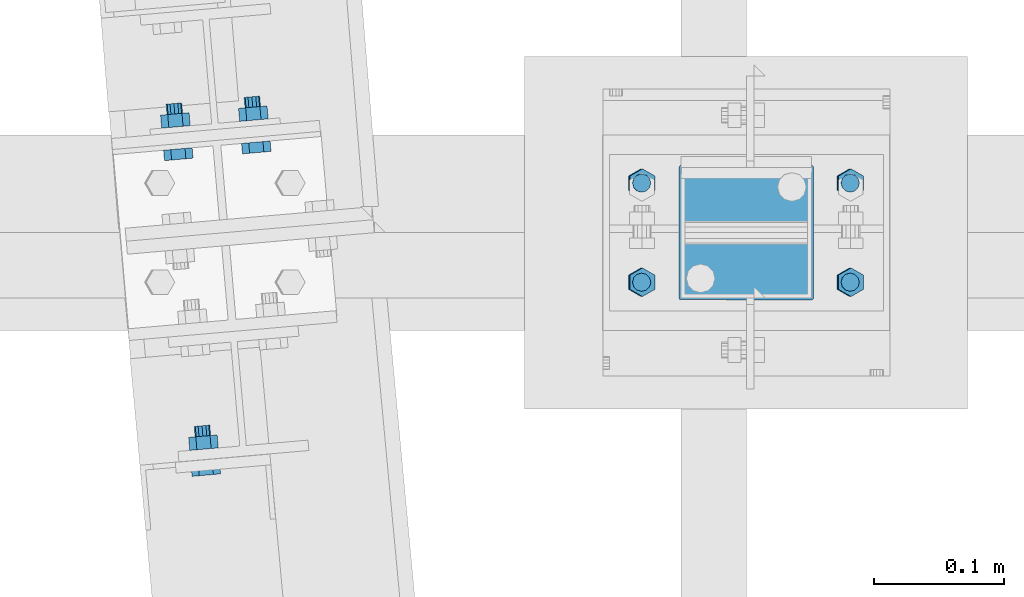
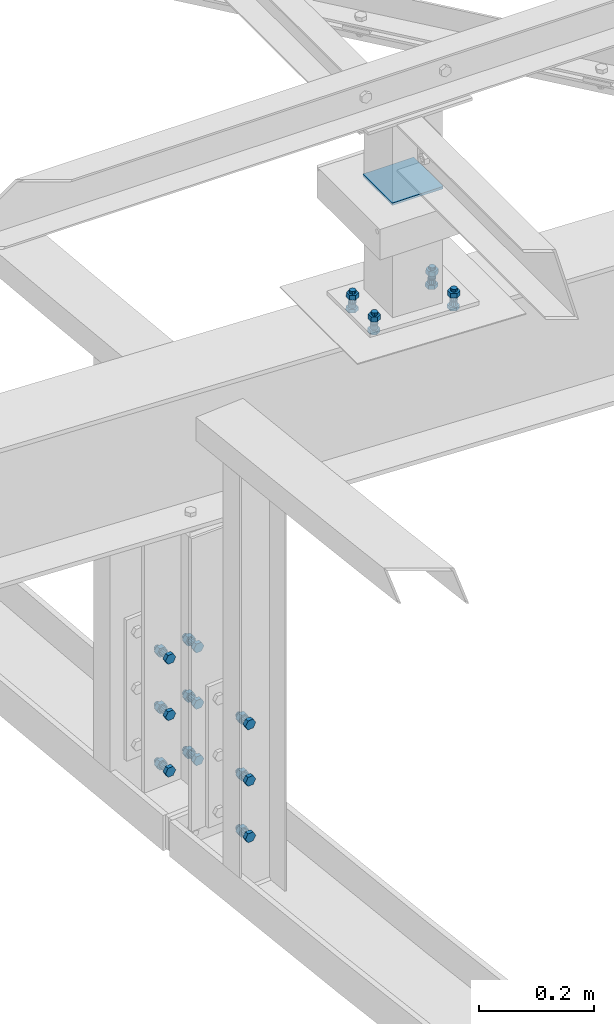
# One storey, part 75 of 3134: 5 mechanical fasteners, 4 elements without a shape of their own.
"""IFC2X3 building model written with IfcOpenShell, lengths in millimetres."""

from ifc_helpers import new_model, si_unit, frame, origin_with_axes, place, context, subcontext, project, spatial, faceted_brep, source, transform, mapped, material, type_object, element, aggregate, save


model = new_model("IFC2X3")

# Units and contexts
model_context = context("Model", 3, precision=1e-05, world=origin_with_axes())
body_context = subcontext(model_context, "Body", "Model", "MODEL_VIEW")
ifc_project = project(units=[si_unit("LENGTHUNIT", "METRE", prefix="MILLI"), si_unit("AREAUNIT", "SQUARE_METRE"), si_unit("VOLUMEUNIT", "CUBIC_METRE"), si_unit("MASSUNIT", "GRAM", prefix="KILO"), si_unit("TIMEUNIT", "SECOND"), si_unit("PLANEANGLEUNIT", "RADIAN"), si_unit("SOLIDANGLEUNIT", "STERADIAN"), si_unit("THERMODYNAMICTEMPERATUREUNIT", "DEGREE_CELSIUS"), si_unit("LUMINOUSINTENSITYUNIT", "LUMEN")], contexts=[model_context])

# Site, building, storey
site_placement = place(None, origin_with_axes())
site = spatial("IfcSite", under=ifc_project, at=site_placement, CompositionType="ELEMENT")
building_placement = place(site_placement, origin_with_axes())
building = spatial("IfcBuilding", under=site, at=building_placement, Name="Undefined", CompositionType="ELEMENT")
storey_placement = place(building_placement, origin_with_axes())
storey = spatial("IfcBuildingStorey", under=building, at=storey_placement, Name="Undefined", CompositionType="ELEMENT", Elevation=0.0)

# Assembly, mechanical fastener
assembly_1_placement = place(storey_placement, origin_with_axes())
assembly_1 = element("IfcElementAssembly", 1, at=assembly_1_placement, inside=storey, Name="HEA100", AssemblyPlace="NOTDEFINED", PredefinedType="RIGID_FRAME")
ifc_material_1 = material(Name="8.8")
mechanical_fastener_type = type_object("IfcMechanicalFastenerType", Name="Bolt assembly")
shared_shape_1 = source(origin_with_axes(), body_context, "Body", "Brep", [
    faceted_brep([(10.9696551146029, -12.0, 0.0), (5.48482755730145, -12.0, 9.5), (-5.48482755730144, -12.0, 9.5), (-10.9696551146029, -12.0, 1.34339530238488e-15), (-5.48482755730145, -12.0, -9.5), (5.48482755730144, -12.0, -9.50000000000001), (5.48482755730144, -4.0, -9.50000000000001), (-5.48482755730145, -4.0, -9.5), (-10.9696551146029, -4.0, 1.34339530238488e-15), (-5.48482755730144, -4.0, 9.5), (5.48482755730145, -4.0, 9.5), (10.9696551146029, -4.0, 0.0), (6.0, -4.0, 0.0), (5.19615242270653, -4.0, 3.00000000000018), (2.99999999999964, -4.0, 5.19615242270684), (-6.21801588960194e-13, -4.0, 6.0), (-3.00000000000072, -4.0, 5.19615242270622), (-5.19615242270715, -4.0, 2.9999999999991), (-6.0, -4.0, -1.24360317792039e-12), (-5.19615242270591, -4.0, -3.00000000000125), (-2.99999999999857, -4.0, -5.19615242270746), (1.85874342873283e-12, -4.0, -6.0), (3.00000000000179, -4.0, -5.1961524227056), (5.19615242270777, -4.0, -2.99999999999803), (5.19615242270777, 26.0, -2.99999999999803), (3.00000000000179, 26.0, -5.1961524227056), (1.85874342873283e-12, 26.0, -6.0), (-2.99999999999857, 26.0, -5.19615242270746), (-5.19615242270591, 26.0, -3.00000000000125), (-6.0, 26.0, -1.24360317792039e-12), (-5.19615242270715, 26.0, 2.9999999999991), (-3.00000000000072, 26.0, 5.19615242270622), (-6.21801588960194e-13, 26.0, 6.0), (2.99999999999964, 26.0, 5.19615242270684), (5.19615242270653, 26.0, 3.00000000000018), (6.0, 26.0, 0.0), (10.9696551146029, 8.0, 0.0), (5.48482755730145, 8.0, 9.5), (-5.48482755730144, 8.0, 9.5), (-10.9696551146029, 8.0, 1.34339530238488e-15), (-5.48482755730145, 8.0, -9.5), (5.48482755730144, 8.0, -9.50000000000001), (5.48482755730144, 18.0, -9.50000000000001), (-5.48482755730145, 18.0, -9.5), (-10.9696551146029, 18.0, 1.34339530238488e-15), (-5.48482755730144, 18.0, 9.5), (5.48482755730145, 18.0, 9.5), (10.9696551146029, 18.0, 0.0)], [[[0, 1, 2, 3, 4, 5]], [[6, 7, 8, 9, 10, 11]], [[0, 11, 10, 1]], [[1, 10, 9, 2]], [[2, 9, 8, 3]], [[3, 8, 7, 4]], [[4, 7, 6, 5]], [[5, 6, 11, 0]], [[12, 13, 14, 15, 16, 17, 18, 19, 20, 21, 22, 23]], [[24, 25, 26, 27, 28, 29, 30, 31, 32, 33, 34, 35]], [[12, 35, 34, 13]], [[13, 34, 33, 14]], [[14, 33, 32, 15]], [[15, 32, 31, 16]], [[16, 31, 30, 17]], [[17, 30, 29, 18]], [[18, 29, 28, 19]], [[19, 28, 27, 20]], [[20, 27, 26, 21]], [[21, 26, 25, 22]], [[22, 25, 24, 23]], [[23, 24, 35, 12]], [[36, 37, 38, 39, 40, 41]], [[42, 43, 44, 45, 46, 47]], [[36, 47, 46, 37]], [[37, 46, 45, 38]], [[38, 45, 44, 39]], [[39, 44, 43, 40]], [[40, 43, 42, 41]], [[41, 42, 47, 36]]]),
    faceted_brep([(7.0, -3.9, 0.0), (6.06217782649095, -3.9, 3.50000000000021), (3.49999999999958, -3.9, 6.06217782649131), (-7.25435187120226e-13, -3.9, 7.0), (-3.50000000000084, -3.9, 6.06217782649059), (-6.06217782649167, -3.9, 3.49999999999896), (-7.0, -3.9, -1.45087037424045e-12), (-6.06217782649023, -3.9, -3.50000000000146), (-3.49999999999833, -3.9, -6.06217782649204), (2.1685340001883e-12, -3.9, -7.0), (3.50000000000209, -3.9, -6.06217782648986), (6.0621778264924, -3.9, -3.4999999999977), (6.0621778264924, 0.0999999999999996, -3.4999999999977), (3.50000000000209, 0.0999999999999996, -6.06217782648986), (2.1685340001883e-12, 0.0999999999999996, -7.0), (-3.49999999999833, 0.0999999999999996, -6.06217782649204), (-6.06217782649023, 0.0999999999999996, -3.50000000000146), (-7.0, 0.0999999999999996, -1.45087037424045e-12), (-6.06217782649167, 0.0999999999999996, 3.49999999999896), (-3.50000000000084, 0.0999999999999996, 6.06217782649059), (-7.25435187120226e-13, 0.0999999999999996, 7.0), (3.49999999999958, 0.0999999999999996, 6.06217782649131), (6.06217782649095, 0.0999999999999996, 3.50000000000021), (7.0, 0.0999999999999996, 0.0), (7.0, -0.1, 0.0), (6.06217782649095, -0.1, 3.50000000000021), (3.49999999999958, -0.1, 6.06217782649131), (-7.25435187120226e-13, -0.1, 7.0), (-3.50000000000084, -0.1, 6.06217782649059), (-6.06217782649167, -0.1, 3.49999999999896), (-7.0, -0.1, -1.45087037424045e-12), (-6.06217782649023, -0.1, -3.50000000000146), (-3.49999999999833, -0.1, -6.06217782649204), (2.1685340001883e-12, -0.1, -7.0), (3.50000000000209, -0.1, -6.06217782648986), (6.0621778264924, -0.1, -3.4999999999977), (6.0621778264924, 8.0000000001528, -3.4999999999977), (3.50000000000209, 8.0000000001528, -6.06217782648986), (2.1685340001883e-12, 8.0000000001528, -7.0), (-3.49999999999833, 8.0000000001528, -6.06217782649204), (-6.06217782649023, 8.0000000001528, -3.50000000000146), (-7.0, 8.0000000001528, -1.45087037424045e-12), (-6.06217782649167, 8.0000000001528, 3.49999999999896), (-3.50000000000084, 8.0000000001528, 6.06217782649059), (-7.25435187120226e-13, 8.0000000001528, 7.0), (3.49999999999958, 8.0000000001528, 6.06217782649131), (6.06217782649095, 8.0000000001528, 3.50000000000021), (7.0, 8.0000000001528, 0.0)], [[[0, 1, 2, 3, 4, 5, 6, 7, 8, 9, 10, 11]], [[12, 13, 14, 15, 16, 17, 18, 19, 20, 21, 22, 23]], [[0, 23, 22, 1]], [[1, 22, 21, 2]], [[2, 21, 20, 3]], [[3, 20, 19, 4]], [[4, 19, 18, 5]], [[5, 18, 17, 6]], [[6, 17, 16, 7]], [[7, 16, 15, 8]], [[8, 15, 14, 9]], [[9, 14, 13, 10]], [[10, 13, 12, 11]], [[11, 12, 23, 0]], [[24, 25, 26, 27, 28, 29, 30, 31, 32, 33, 34, 35]], [[36, 37, 38, 39, 40, 41, 42, 43, 44, 45, 46, 47]], [[24, 47, 46, 25]], [[25, 46, 45, 26]], [[26, 45, 44, 27]], [[27, 44, 43, 28]], [[28, 43, 42, 29]], [[29, 42, 41, 30]], [[30, 41, 40, 31]], [[31, 40, 39, 32]], [[32, 39, 38, 33]], [[33, 38, 37, 34]], [[34, 37, 36, 35]], [[35, 36, 47, 24]]]),
])
mechanical_fastener_1_placement = place(assembly_1_placement, frame((2628.25780950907, 29401.0450868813, 3170.0), z_axis=(0.0, 0.0, 1.0), x_axis=(0.996225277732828, 0.0868055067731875, 0.0)))
mechanical_fastener_1 = element("IfcMechanicalFastener", 2, at=mechanical_fastener_1_placement, type_object=mechanical_fastener_type, material=ifc_material_1, Name="Bolt assembly", NominalDiameter=12.0, NominalLength=30.0, context=body_context, shape_type="MappedRepresentation", body=[
    mapped(shared_shape_1, transform((0.0, 0.0, -120.0))),
    mapped(shared_shape_1, transform((0.0, 0.0, 0.0))),
    mapped(shared_shape_1, transform((0.0, 0.0, 120.0))),
])
aggregate(assembly_1, [mechanical_fastener_1])

assembly_2_placement = place(storey_placement, origin_with_axes())
assembly_2 = element("IfcElementAssembly", 3, at=assembly_2_placement, inside=storey, Name="HEA160", AssemblyPlace="NOTDEFINED", PredefinedType="RIGID_FRAME")
shared_shape_2 = source(origin_with_axes(), body_context, "Body", "Brep", [
    faceted_brep([(10.9696551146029, -17.0000000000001, 0.0), (5.48482755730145, -17.0000000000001, 9.5), (-5.48482755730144, -17.0000000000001, 9.5), (-10.9696551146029, -17.0000000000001, 1.34339530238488e-15), (-5.48482755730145, -17.0000000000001, -9.5), (5.48482755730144, -17.0000000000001, -9.50000000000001), (5.48482755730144, -9.00000000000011, -9.50000000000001), (-5.48482755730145, -9.00000000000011, -9.5), (-10.9696551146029, -9.00000000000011, 1.34339530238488e-15), (-5.48482755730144, -9.00000000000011, 9.5), (5.48482755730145, -9.00000000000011, 9.5), (10.9696551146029, -9.00000000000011, 0.0), (6.0, -9.00000000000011, 0.0), (5.19615242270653, -9.00000000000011, 3.00000000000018), (2.99999999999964, -9.00000000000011, 5.19615242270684), (-6.21801588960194e-13, -9.00000000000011, 6.0), (-3.00000000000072, -9.00000000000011, 5.19615242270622), (-5.19615242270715, -9.00000000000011, 2.9999999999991), (-6.0, -9.00000000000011, -1.24360317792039e-12), (-5.19615242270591, -9.00000000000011, -3.00000000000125), (-2.99999999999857, -9.00000000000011, -5.19615242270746), (1.85874342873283e-12, -9.00000000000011, -6.0), (3.00000000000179, -9.00000000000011, -5.1961524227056), (5.19615242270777, -9.00000000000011, -2.99999999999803), (5.19615242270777, 26.0, -2.99999999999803), (3.00000000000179, 26.0, -5.1961524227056), (1.85874342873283e-12, 26.0, -6.0), (-2.99999999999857, 26.0, -5.19615242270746), (-5.19615242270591, 26.0, -3.00000000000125), (-6.0, 26.0, -1.24360317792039e-12), (-5.19615242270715, 26.0, 2.9999999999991), (-3.00000000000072, 26.0, 5.19615242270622), (-6.21801588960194e-13, 26.0, 6.0), (2.99999999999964, 26.0, 5.19615242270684), (5.19615242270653, 26.0, 3.00000000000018), (6.0, 26.0, 0.0), (10.9696551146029, 8.0, 0.0), (5.48482755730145, 8.0, 9.5), (-5.48482755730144, 8.0, 9.5), (-10.9696551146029, 8.0, 1.34339530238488e-15), (-5.48482755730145, 8.0, -9.5), (5.48482755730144, 8.0, -9.50000000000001), (5.48482755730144, 18.0, -9.50000000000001), (-5.48482755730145, 18.0, -9.5), (-10.9696551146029, 18.0, 1.34339530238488e-15), (-5.48482755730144, 18.0, 9.5), (5.48482755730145, 18.0, 9.5), (10.9696551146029, 18.0, 0.0)], [[[0, 1, 2, 3, 4, 5]], [[6, 7, 8, 9, 10, 11]], [[0, 11, 10, 1]], [[1, 10, 9, 2]], [[2, 9, 8, 3]], [[3, 8, 7, 4]], [[4, 7, 6, 5]], [[5, 6, 11, 0]], [[12, 13, 14, 15, 16, 17, 18, 19, 20, 21, 22, 23]], [[24, 25, 26, 27, 28, 29, 30, 31, 32, 33, 34, 35]], [[12, 35, 34, 13]], [[13, 34, 33, 14]], [[14, 33, 32, 15]], [[15, 32, 31, 16]], [[16, 31, 30, 17]], [[17, 30, 29, 18]], [[18, 29, 28, 19]], [[19, 28, 27, 20]], [[20, 27, 26, 21]], [[21, 26, 25, 22]], [[22, 25, 24, 23]], [[23, 24, 35, 12]], [[36, 37, 38, 39, 40, 41]], [[42, 43, 44, 45, 46, 47]], [[36, 47, 46, 37]], [[37, 46, 45, 38]], [[38, 45, 44, 39]], [[39, 44, 43, 40]], [[40, 43, 42, 41]], [[41, 42, 47, 36]]]),
    faceted_brep([(7.0, -0.1, 0.0), (6.06217782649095, -0.1, 3.50000000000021), (3.49999999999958, -0.1, 6.06217782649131), (-7.25435187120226e-13, -0.1, 7.0), (-3.50000000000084, -0.1, 6.06217782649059), (-6.06217782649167, -0.1, 3.49999999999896), (-7.0, -0.1, -1.45087037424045e-12), (-6.06217782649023, -0.1, -3.50000000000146), (-3.49999999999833, -0.1, -6.06217782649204), (2.1685340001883e-12, -0.1, -7.0), (3.50000000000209, -0.1, -6.06217782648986), (6.0621778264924, -0.1, -3.4999999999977), (6.0621778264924, 8.0000000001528, -3.4999999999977), (3.50000000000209, 8.0000000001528, -6.06217782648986), (2.1685340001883e-12, 8.0000000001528, -7.0), (-3.49999999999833, 8.0000000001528, -6.06217782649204), (-6.06217782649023, 8.0000000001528, -3.50000000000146), (-7.0, 8.0000000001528, -1.45087037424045e-12), (-6.06217782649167, 8.0000000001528, 3.49999999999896), (-3.50000000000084, 8.0000000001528, 6.06217782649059), (-7.25435187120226e-13, 8.0000000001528, 7.0), (3.49999999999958, 8.0000000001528, 6.06217782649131), (6.06217782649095, 8.0000000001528, 3.50000000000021), (7.0, 8.0000000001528, 0.0), (7.0, -8.90000000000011, 0.0), (6.06217782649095, -8.90000000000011, 3.50000000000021), (3.49999999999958, -8.90000000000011, 6.06217782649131), (-7.25435187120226e-13, -8.90000000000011, 7.0), (-3.50000000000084, -8.90000000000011, 6.06217782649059), (-6.06217782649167, -8.90000000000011, 3.49999999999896), (-7.0, -8.90000000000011, -1.45087037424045e-12), (-6.06217782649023, -8.90000000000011, -3.50000000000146), (-3.49999999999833, -8.90000000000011, -6.06217782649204), (2.1685340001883e-12, -8.90000000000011, -7.0), (3.50000000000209, -8.90000000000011, -6.06217782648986), (6.0621778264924, -8.90000000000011, -3.4999999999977), (6.0621778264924, 0.0999999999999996, -3.4999999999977), (3.50000000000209, 0.0999999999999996, -6.06217782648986), (2.1685340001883e-12, 0.0999999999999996, -7.0), (-3.49999999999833, 0.0999999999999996, -6.06217782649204), (-6.06217782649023, 0.0999999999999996, -3.50000000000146), (-7.0, 0.0999999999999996, -1.45087037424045e-12), (-6.06217782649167, 0.0999999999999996, 3.49999999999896), (-3.50000000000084, 0.0999999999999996, 6.06217782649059), (-7.25435187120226e-13, 0.0999999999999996, 7.0), (3.49999999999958, 0.0999999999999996, 6.06217782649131), (6.06217782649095, 0.0999999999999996, 3.50000000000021), (7.0, 0.0999999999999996, 0.0)], [[[0, 1, 2, 3, 4, 5, 6, 7, 8, 9, 10, 11]], [[12, 13, 14, 15, 16, 17, 18, 19, 20, 21, 22, 23]], [[0, 23, 22, 1]], [[1, 22, 21, 2]], [[2, 21, 20, 3]], [[3, 20, 19, 4]], [[4, 19, 18, 5]], [[5, 18, 17, 6]], [[6, 17, 16, 7]], [[7, 16, 15, 8]], [[8, 15, 14, 9]], [[9, 14, 13, 10]], [[10, 13, 12, 11]], [[11, 12, 23, 0]], [[24, 25, 26, 27, 28, 29, 30, 31, 32, 33, 34, 35]], [[36, 37, 38, 39, 40, 41, 42, 43, 44, 45, 46, 47]], [[24, 47, 46, 25]], [[25, 46, 45, 26]], [[26, 45, 44, 27]], [[27, 44, 43, 28]], [[28, 43, 42, 29]], [[29, 42, 41, 30]], [[30, 41, 40, 31]], [[31, 40, 39, 32]], [[32, 39, 38, 33]], [[33, 38, 37, 34]], [[34, 37, 36, 35]], [[35, 36, 47, 24]]]),
])
mechanical_fastener_2_placement = place(assembly_2_placement, frame((2606.73004142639, 29648.1089555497, 3170.0), z_axis=(0.0, 0.0, 1.0), x_axis=(0.996225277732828, 0.0868055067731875, 0.0)))
mechanical_fastener_2 = element("IfcMechanicalFastener", 4, at=mechanical_fastener_2_placement, type_object=mechanical_fastener_type, material=ifc_material_1, Name="Bolt assembly", NominalDiameter=12.0, NominalLength=35.0, context=body_context, shape_type="MappedRepresentation", body=[
    mapped(shared_shape_2, transform((0.0, 0.0, -120.0))),
    mapped(shared_shape_2, transform((60.0000000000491, 0.0, -120.0))),
    mapped(shared_shape_2, transform((0.0, 0.0, 0.0))),
    mapped(shared_shape_2, transform((59.9999999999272, 0.0, 5.40239852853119e-10))),
    mapped(shared_shape_2, transform((0.0, 0.0, 120.0))),
    mapped(shared_shape_2, transform((60.0000000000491, 0.0, 120.0))),
])
aggregate(assembly_2, [mechanical_fastener_2])

assembly_3_placement = place(storey_placement, origin_with_axes())
assembly_3 = element("IfcElementAssembly", 5, at=assembly_3_placement, inside=storey, AssemblyPlace="NOTDEFINED", PredefinedType="RIGID_FRAME")
shared_shape_3 = source(origin_with_axes(), body_context, "Body", "Brep", [
    faceted_brep([(10.9696551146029, -4.1972538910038, 0.0), (5.48482755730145, -4.1972538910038, 9.5), (-5.48482755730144, -4.1972538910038, 9.5), (-10.9696551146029, -4.1972538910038, 1.34339530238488e-15), (-5.48482755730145, -4.1972538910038, -9.5), (5.48482755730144, -4.1972538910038, -9.50000000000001), (5.48482755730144, 3.8027461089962, -9.50000000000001), (-5.48482755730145, 3.8027461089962, -9.5), (-10.9696551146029, 3.8027461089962, 1.34339530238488e-15), (-5.48482755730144, 3.8027461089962, 9.5), (5.48482755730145, 3.8027461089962, 9.5), (10.9696551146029, 3.8027461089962, 0.0), (6.0, 3.8027461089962, 0.0), (5.19615242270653, 3.8027461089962, 3.00000000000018), (2.99999999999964, 3.8027461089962, 5.19615242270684), (-6.21801588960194e-13, 3.8027461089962, 6.0), (-3.00000000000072, 3.8027461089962, 5.19615242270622), (-5.19615242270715, 3.8027461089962, 2.9999999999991), (-6.0, 3.8027461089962, -1.24360317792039e-12), (-5.19615242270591, 3.8027461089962, -3.00000000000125), (-2.99999999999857, 3.8027461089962, -5.19615242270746), (1.85874342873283e-12, 3.8027461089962, -6.0), (3.00000000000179, 3.8027461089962, -5.1961524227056), (5.19615242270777, 3.8027461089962, -2.99999999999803), (5.19615242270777, 38.8027461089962, -2.99999999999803), (3.00000000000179, 38.8027461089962, -5.1961524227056), (1.85874342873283e-12, 38.8027461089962, -6.0), (-2.99999999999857, 38.8027461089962, -5.19615242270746), (-5.19615242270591, 38.8027461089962, -3.00000000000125), (-6.0, 38.8027461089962, -1.24360317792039e-12), (-5.19615242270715, 38.8027461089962, 2.9999999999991), (-3.00000000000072, 38.8027461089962, 5.19615242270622), (-6.21801588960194e-13, 38.8027461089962, 6.0), (2.99999999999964, 38.8027461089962, 5.19615242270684), (5.19615242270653, 38.8027461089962, 3.00000000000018), (6.0, 38.8027461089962, 0.0), (10.9696551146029, 23.0139082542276, 0.0), (5.48482755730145, 23.0139082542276, 9.5), (-5.48482755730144, 23.0139082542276, 9.5), (-10.9696551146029, 23.0139082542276, 1.34339530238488e-15), (-5.48482755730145, 23.0139082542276, -9.5), (5.48482755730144, 23.0139082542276, -9.50000000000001), (5.48482755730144, 33.0139082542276, -9.50000000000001), (-5.48482755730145, 33.0139082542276, -9.5), (-10.9696551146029, 33.0139082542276, 1.34339530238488e-15), (-5.48482755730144, 33.0139082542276, 9.5), (5.48482755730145, 33.0139082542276, 9.5), (10.9696551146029, 33.0139082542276, 0.0)], [[[0, 1, 2, 3, 4, 5]], [[6, 7, 8, 9, 10, 11]], [[0, 11, 10, 1]], [[1, 10, 9, 2]], [[2, 9, 8, 3]], [[3, 8, 7, 4]], [[4, 7, 6, 5]], [[5, 6, 11, 0]], [[12, 13, 14, 15, 16, 17, 18, 19, 20, 21, 22, 23]], [[24, 25, 26, 27, 28, 29, 30, 31, 32, 33, 34, 35]], [[12, 35, 34, 13]], [[13, 34, 33, 14]], [[14, 33, 32, 15]], [[15, 32, 31, 16]], [[16, 31, 30, 17]], [[17, 30, 29, 18]], [[18, 29, 28, 19]], [[19, 28, 27, 20]], [[20, 27, 26, 21]], [[21, 26, 25, 22]], [[22, 25, 24, 23]], [[23, 24, 35, 12]], [[36, 37, 38, 39, 40, 41]], [[42, 43, 44, 45, 46, 47]], [[36, 47, 46, 37]], [[37, 46, 45, 38]], [[38, 45, 44, 39]], [[39, 44, 43, 40]], [[40, 43, 42, 41]], [[41, 42, 47, 36]]]),
    faceted_brep([(7.0, 3.9027461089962, 0.0), (6.06217782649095, 3.9027461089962, 3.50000000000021), (3.49999999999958, 3.9027461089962, 6.06217782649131), (-7.25435187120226e-13, 3.9027461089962, 7.0), (-3.50000000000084, 3.9027461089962, 6.06217782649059), (-6.06217782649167, 3.9027461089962, 3.49999999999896), (-7.0, 3.9027461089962, -1.45087037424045e-12), (-6.06217782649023, 3.9027461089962, -3.50000000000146), (-3.49999999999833, 3.9027461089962, -6.06217782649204), (2.1685340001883e-12, 3.9027461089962, -7.0), (3.50000000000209, 3.9027461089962, -6.06217782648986), (6.0621778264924, 3.9027461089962, -3.4999999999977), (6.0621778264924, 13.1027459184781, -3.4999999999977), (3.50000000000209, 13.1027459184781, -6.06217782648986), (2.1685340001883e-12, 13.1027459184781, -7.0), (-3.49999999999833, 13.1027459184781, -6.06217782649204), (-6.06217782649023, 13.1027459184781, -3.50000000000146), (-7.0, 13.1027459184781, -1.45087037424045e-12), (-6.06217782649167, 13.1027459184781, 3.49999999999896), (-3.50000000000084, 13.1027459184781, 6.06217782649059), (-7.25435187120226e-13, 13.1027459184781, 7.0), (3.49999999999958, 13.1027459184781, 6.06217782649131), (6.06217782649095, 13.1027459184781, 3.50000000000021), (7.0, 13.1027459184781, 0.0), (7.0, 14.9139082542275, 0.0), (6.06217782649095, 14.9139082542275, 3.50000000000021), (3.49999999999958, 14.9139082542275, 6.06217782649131), (-7.25435187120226e-13, 14.9139082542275, 7.0), (-3.50000000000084, 14.9139082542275, 6.06217782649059), (-6.06217782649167, 14.9139082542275, 3.49999999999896), (-7.0, 14.9139082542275, -1.45087037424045e-12), (-6.06217782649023, 14.9139082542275, -3.50000000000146), (-3.49999999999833, 14.9139082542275, -6.06217782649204), (2.1685340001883e-12, 14.9139082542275, -7.0), (3.50000000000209, 14.9139082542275, -6.06217782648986), (6.0621778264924, 14.9139082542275, -3.4999999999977), (6.0621778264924, 23.0139082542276, -3.4999999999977), (3.50000000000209, 23.0139082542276, -6.06217782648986), (2.1685340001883e-12, 23.0139082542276, -7.0), (-3.49999999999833, 23.0139082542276, -6.06217782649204), (-6.06217782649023, 23.0139082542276, -3.50000000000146), (-7.0, 23.0139082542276, -1.45087037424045e-12), (-6.06217782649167, 23.0139082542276, 3.49999999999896), (-3.50000000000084, 23.0139082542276, 6.06217782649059), (-7.25435187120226e-13, 23.0139082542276, 7.0), (3.49999999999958, 23.0139082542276, 6.06217782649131), (6.06217782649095, 23.0139082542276, 3.50000000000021), (7.0, 23.0139082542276, 0.0)], [[[0, 1, 2, 3, 4, 5, 6, 7, 8, 9, 10, 11]], [[12, 13, 14, 15, 16, 17, 18, 19, 20, 21, 22, 23]], [[0, 23, 22, 1]], [[1, 22, 21, 2]], [[2, 21, 20, 3]], [[3, 20, 19, 4]], [[4, 19, 18, 5]], [[5, 18, 17, 6]], [[6, 17, 16, 7]], [[7, 16, 15, 8]], [[8, 15, 14, 9]], [[9, 14, 13, 10]], [[10, 13, 12, 11]], [[11, 12, 23, 0]], [[24, 25, 26, 27, 28, 29, 30, 31, 32, 33, 34, 35]], [[36, 37, 38, 39, 40, 41, 42, 43, 44, 45, 46, 47]], [[24, 47, 46, 25]], [[25, 46, 45, 26]], [[26, 45, 44, 27]], [[27, 44, 43, 28]], [[28, 43, 42, 29]], [[29, 42, 41, 30]], [[30, 41, 40, 31]], [[31, 40, 39, 32]], [[32, 39, 38, 33]], [[33, 38, 37, 34]], [[34, 37, 36, 35]], [[35, 36, 47, 24]]]),
])
mechanical_fastener_3_placement = place(assembly_3_placement, frame((3042.5231765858, 29612.9999999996, 3920.50000668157), z_axis=(-0.999387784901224, 0.0, 0.0349865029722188), x_axis=(0.0, -1.0, 0.0)))
mechanical_fastener_3 = element("IfcMechanicalFastener", 6, at=mechanical_fastener_3_placement, type_object=mechanical_fastener_type, material=ifc_material_1, Name="Bolt assembly", NominalDiameter=12.0, NominalLength=35.0, context=body_context, shape_type="MappedRepresentation", body=[
    mapped(shared_shape_3, transform((0.0, -5.32963895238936e-10, -79.9999999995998))),
    mapped(shared_shape_3, transform((76.0, -5.32963895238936e-10, -79.9999999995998))),
    mapped(shared_shape_3, transform((0.0, 5.3114490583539e-10, 79.9999999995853))),
    mapped(shared_shape_3, transform((76.0, 5.3114490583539e-10, 79.9999999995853))),
])

assembly_4_placement = place(storey_placement, origin_with_axes())
assembly_4 = element("IfcElementAssembly", 7, at=assembly_4_placement, inside=storey, AssemblyPlace="NOTDEFINED", PredefinedType="RIGID_FRAME")
shared_shape_4 = source(origin_with_axes(), body_context, "Body", "Brep", [
    faceted_brep([(7.0, 13.0000253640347, 0.0), (6.06217782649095, 13.0000253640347, 3.50000000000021), (3.49999999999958, 13.0000253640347, 6.06217782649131), (-7.25435187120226e-13, 13.0000253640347, 7.0), (-3.50000000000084, 13.0000253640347, 6.06217782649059), (-6.06217782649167, 13.0000253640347, 3.49999999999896), (-7.0, 13.0000253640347, -1.45087037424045e-12), (-6.06217782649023, 13.0000253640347, -3.50000000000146), (-3.49999999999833, 13.0000253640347, -6.06217782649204), (2.1685340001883e-12, 13.0000253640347, -7.0), (3.50000000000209, 13.0000253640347, -6.06217782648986), (6.0621778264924, 13.0000253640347, -3.4999999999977), (6.0621778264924, 15.0999999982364, -3.4999999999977), (3.50000000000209, 15.0999999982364, -6.06217782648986), (2.1685340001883e-12, 15.0999999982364, -7.0), (-3.49999999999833, 15.0999999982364, -6.06217782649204), (-6.06217782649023, 15.0999999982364, -3.50000000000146), (-7.0, 15.0999999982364, -1.45087037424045e-12), (-6.06217782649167, 15.0999999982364, 3.49999999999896), (-3.50000000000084, 15.0999999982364, 6.06217782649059), (-7.25435187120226e-13, 15.0999999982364, 7.0), (3.49999999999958, 15.0999999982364, 6.06217782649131), (6.06217782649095, 15.0999999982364, 3.50000000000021), (7.0, 15.0999999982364, 0.0)], [[[0, 1, 2, 3, 4, 5, 6, 7, 8, 9, 10, 11]], [[12, 13, 14, 15, 16, 17, 18, 19, 20, 21, 22, 23]], [[0, 23, 22, 1]], [[1, 22, 21, 2]], [[2, 21, 20, 3]], [[3, 20, 19, 4]], [[4, 19, 18, 5]], [[5, 18, 17, 6]], [[6, 17, 16, 7]], [[7, 16, 15, 8]], [[8, 15, 14, 9]], [[9, 14, 13, 10]], [[10, 13, 12, 11]], [[11, 12, 23, 0]]]),
])
mechanical_fastener_4_placement = place(assembly_4_placement, frame((3042.5231765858, 29612.9999999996, 3920.50000668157), z_axis=(-0.999387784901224, 0.0, 0.0349865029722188), x_axis=(0.0, -1.0, 0.0)))
mechanical_fastener_4 = element("IfcMechanicalFastener", 8, at=mechanical_fastener_4_placement, type_object=mechanical_fastener_type, material=ifc_material_1, Name="Bolt assembly", NominalDiameter=12.0, NominalLength=2.0, context=body_context, shape_type="MappedRepresentation", body=[
    mapped(shared_shape_4, transform((0.0, -5.32963895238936e-10, -79.9999999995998))),
    mapped(shared_shape_4, transform((76.0, -5.32963895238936e-10, -79.9999999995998))),
    mapped(shared_shape_4, transform((0.0, 5.3114490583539e-10, 79.9999999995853))),
    mapped(shared_shape_4, transform((76.0, 5.3114490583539e-10, 79.9999999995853))),
])
aggregate(assembly_4, [mechanical_fastener_4])

# Mechanical fastener
ifc_material_2 = material(Name="6.8")
shared_shape_5 = source(origin_with_axes(), body_context, "Body", "Brep", [
    faceted_brep([(51.5, 1.36424205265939e-12, 50.0), (51.3858192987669, 1.36424205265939e-12, 50.5740251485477), (51.0606601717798, 1.36424205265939e-12, 51.0606601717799), (50.5740251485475, 1.36424205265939e-12, 51.385819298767), (-50.0000000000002, 1.36424205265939e-12, 51.5), (-50.7500000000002, 1.36424205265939e-12, 51.2990381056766), (-51.2990381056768, 1.36424205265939e-12, 50.7499999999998), (-51.5, 1.36424205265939e-12, 49.9999999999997), (-51.5, 1.36424205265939e-12, -50.0000000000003), (-51.2990381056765, 1.36424205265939e-12, -50.7500000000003), (-50.7499999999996, 1.36424205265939e-12, -51.2990381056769), (-49.9999999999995, 1.36424205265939e-12, -51.5), (50.0000000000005, 1.36424205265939e-12, -51.5), (50.7500000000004, 1.36424205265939e-12, -51.2990381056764), (51.2990381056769, 1.36424205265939e-12, -50.7499999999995), (51.5, 1.36424205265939e-12, -49.9999999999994), (51.5, 5.10000000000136, -49.9999999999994), (51.2990381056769, 5.10000000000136, -50.7499999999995), (50.7500000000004, 5.10000000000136, -51.2990381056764), (50.0000000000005, 5.10000000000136, -51.5), (-49.9999999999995, 5.10000000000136, -51.5), (-50.7499999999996, 5.10000000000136, -51.2990381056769), (-51.2990381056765, 5.10000000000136, -50.7500000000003), (-51.5, 5.10000000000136, -50.0000000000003), (-51.5, 5.10000000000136, 49.9999999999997), (-51.2990381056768, 5.10000000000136, 50.7499999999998), (-50.7500000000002, 5.10000000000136, 51.2990381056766), (-50.0000000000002, 5.10000000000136, 51.5), (50.5740251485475, 5.10000000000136, 51.385819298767), (51.0606601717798, 5.10000000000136, 51.0606601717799), (51.3858192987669, 5.10000000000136, 50.5740251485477), (51.5, 5.10000000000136, 50.0)], [[[0, 1, 2, 3, 4, 5, 6, 7, 8, 9, 10, 11, 12, 13, 14, 15]], [[16, 17, 18, 19, 20, 21, 22, 23, 24, 25, 26, 27, 28, 29, 30, 31]], [[0, 31, 30, 1]], [[1, 30, 29, 2]], [[2, 29, 28, 3]], [[3, 28, 27, 4]], [[4, 27, 26, 5]], [[5, 26, 25, 6]], [[6, 25, 24, 7]], [[7, 24, 23, 8]], [[8, 23, 22, 9]], [[9, 22, 21, 10]], [[10, 21, 20, 11]], [[11, 20, 19, 12]], [[12, 19, 18, 13]], [[13, 18, 17, 14]], [[14, 17, 16, 15]], [[15, 16, 31, 0]]]),
])
mechanical_fastener_5_placement = place(assembly_3_placement, frame((3043.33, 29575.0, 4190.29), z_axis=(0.0, -1.0, 0.0), x_axis=(-1.0, 0.0, 0.0)))
mechanical_fastener_5 = element("IfcMechanicalFastener", 9, at=mechanical_fastener_5_placement, type_object=mechanical_fastener_type, material=ifc_material_2, Name="Bolt assembly", NominalDiameter=10.0, NominalLength=5.0, context=body_context, shape_type="MappedRepresentation", body=[
    mapped(shared_shape_5, transform((0.0, 0.0, 0.0))),
])

aggregate(assembly_3, [mechanical_fastener_5, mechanical_fastener_3])

save(model, "model.ifc")
